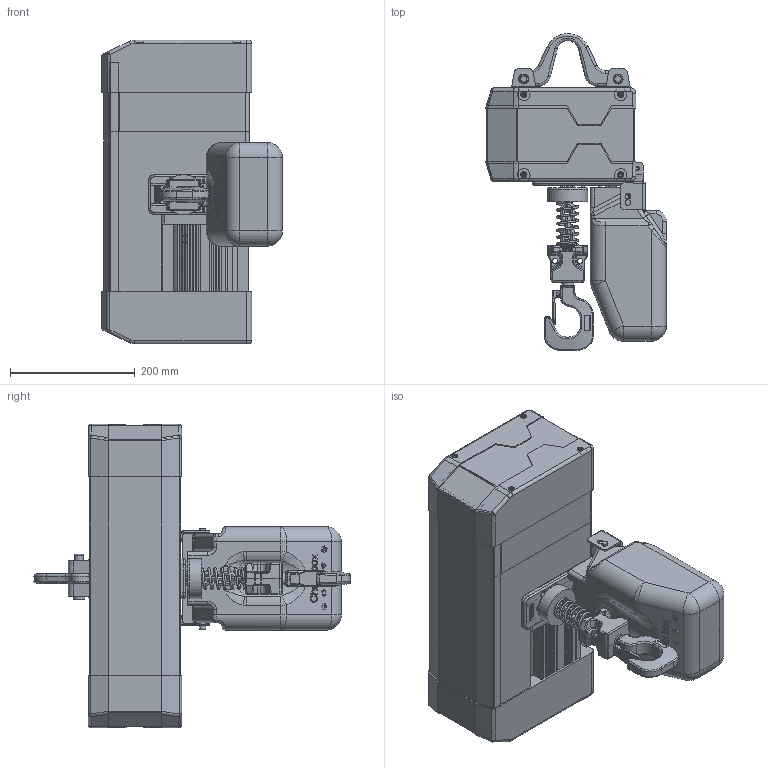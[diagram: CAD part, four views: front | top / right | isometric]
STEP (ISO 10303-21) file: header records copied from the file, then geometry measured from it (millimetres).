
FILE_DESCRIPTION(/* description */ ('CAx-IF Rec.Pracs.---Representation and Presentation of Product Manufacturing Information (PMI)---4.0---2014-10-13','CAx-IF Rec.Pracs.---3D Tessellated Geometry---0.4---2014-09-14','2;1'),/* implementation_level */ '2;1');
FILE_NAME(/* name */ 'YJ 01-01 固定式',/* time_stamp */ '2026-06-03T10:37:12+08:00',/* author */ (''),/* organization */ (''),/* preprocessor_version */ 'ST-DEVELOPER v16.7',/* originating_system */ $,/* authorisation */ $);
FILE_SCHEMA (('AP242_MANAGED_MODEL_BASED_3D_ENGINEERING_MIM_LF { 1 0 10303 442 20130219 1 4 }'));
Products named in the file (1): YJ 01-01 固定式
Bounding box: 289.59 x 507.26 x 486.2 mm (x, y, z)
Volume: 12342778.5 mm3; surface area: 1346630.3 mm2
Topology: 32 solids, 39 shells, 3650 faces, 8874 edges, 5315 vertices
Faces by surface type: plane 1282, cylinder 1110, bspline 603, torus 394, cone 165, sphere 96
Full cylindrical faces by diameter (mm): 1.467 x1, 1.707 x1, 2.14 x1, 2.5 x2, 3.4 x2, 4 x2, 4.2 x4, 4.5 x4, 4.826 x4, 5 x2, 5.795 x4, 5.8 x2, 6 x2, 6.2 x2, 6.6 x8, 6.8 x4, 7 x2, 7.46 x1, 8.5 x4, 8.6 x4, 9 x6, 10 x4, 10.2 x8, 12.8 x4, 13.7 x1, 14 x2, 15.037 x4, 15.2 x2, 18 x2, 19.7 x2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
Entity records: 129542 total; most frequent: CARTESIAN_POINT 45915, ORIENTED_EDGE 16978, DIRECTION 16008, EDGE_CURVE 8489, AXIS2_PLACEMENT_3D 5929, VERTEX_POINT 5235, LINE 4166, VECTOR 4166
